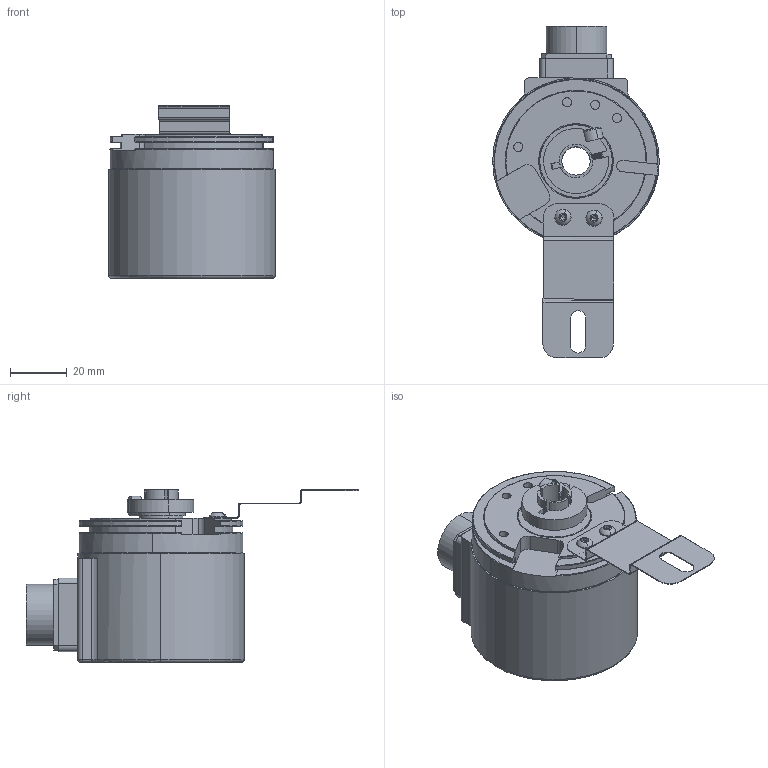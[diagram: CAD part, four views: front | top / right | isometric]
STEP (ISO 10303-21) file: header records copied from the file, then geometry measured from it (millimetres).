
FILE_DESCRIPTION (( 'STEP AP214' ), '1' );
FILE_NAME ('FNC58H.STEP', '2020-01-22T13:42:48', ( '' ), ( '' ), 'SwSTEP 2.0', 'SolidWorks 2018', '' );
FILE_SCHEMA (( 'AUTOMOTIVE_DESIGN' ));
Length unit declared in the file: millimetre
Products named in the file (1): FNC58H
Bounding box: 58.91 x 117.4 x 60.95 mm (x, y, z)
Volume: 124755 mm3; surface area: 34301.7 mm2
Topology: 1 solids, 8 shells, 506 faces, 1269 edges, 805 vertices
Faces by surface type: cylinder 183, plane 163, cone 108, torus 46, sphere 4, bspline 2
Entity records: 15893 total; most frequent: CARTESIAN_POINT 3465, DIRECTION 2740, ORIENTED_EDGE 2522, EDGE_CURVE 1261, AXIS2_PLACEMENT_3D 1094, VERTEX_POINT 805, CIRCLE 589, EDGE_LOOP 566
